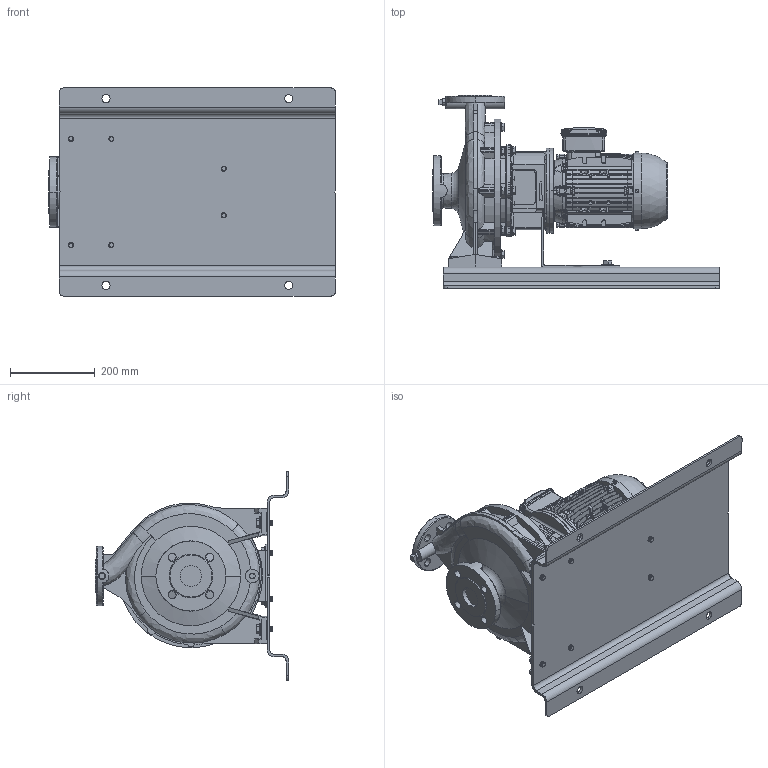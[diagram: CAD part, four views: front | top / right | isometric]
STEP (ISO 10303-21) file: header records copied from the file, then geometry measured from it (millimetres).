
FILE_DESCRIPTION (( 'STEP AP214' ), '1' );
FILE_NAME ('GSD4 32-250_1.1 & 1.5_(90SL)_W21_BP.STEP', '2024-08-07T23:37:02', ( '' ), ( '' ), 'SwSTEP 2.0', 'SolidWorks 2019', '' );
FILE_SCHEMA (( 'AUTOMOTIVE_DESIGN' ));
Length unit declared in the file: millimetre
Products named in the file (8): Parametric bolt_SFT-A295B; 32-250-90S_L_______; Parametric Flat Washer_M12; N5S5 GSDA-551 F1-1832914-00; Parametric bolt_SFT-A299B; CGSD1-4173; GSD4 32-250_1.1 & 1.5_(90SL)_W21_BP; 90S_L ALIE3_W21T_B5
Assembly tree (16 placements, depth 2):
  GSD4 32-250_1.1 & 1.5_(90SL)_W21_BP
    32-250-90S_L_______
    90S_L ALIE3_W21T_B5
    N5S5 GSDA-551 F1-1832914-00
    CGSD1-4173
    Parametric bolt_SFT-A295B  x2
    Parametric bolt_SFT-A299B  x4
    Parametric Flat Washer_M12  x6
Bounding box: 675 x 455 x 490 mm (x, y, z)
Volume: 17550987.3 mm3; surface area: 2011550.8 mm2
Topology: 26 solids, 30 shells, 3965 faces, 10387 edges, 6671 vertices
Faces by surface type: plane 2040, cylinder 1095, torus 297, bspline 261, cone 250, sphere 22
Entity records: 186149 total; most frequent: CARTESIAN_POINT 96352, ORIENTED_EDGE 19498, DIRECTION 17416, EDGE_CURVE 9749, VERTEX_POINT 6286, AXIS2_PLACEMENT_3D 5930, VECTOR 5556, LINE 5556
